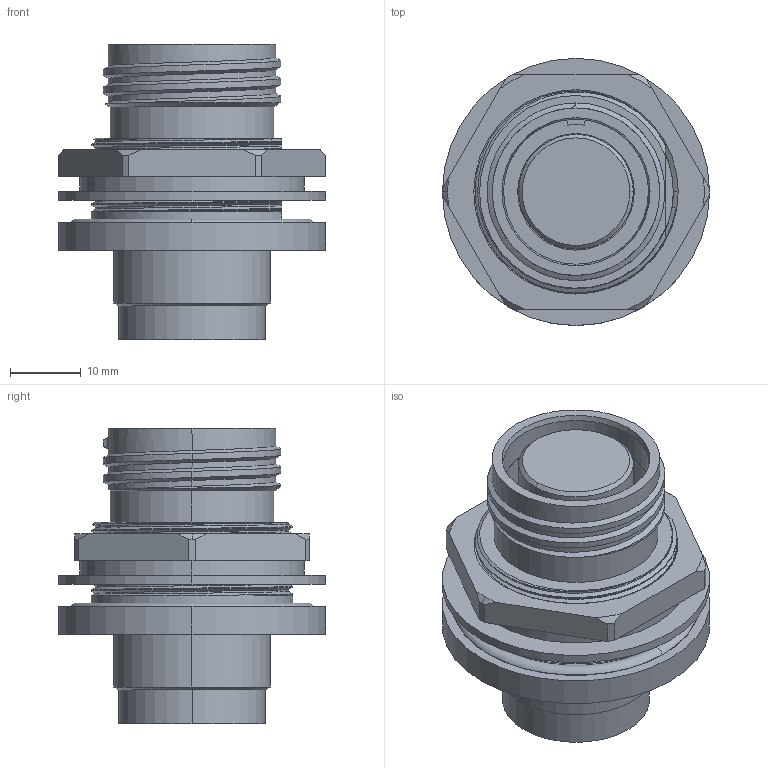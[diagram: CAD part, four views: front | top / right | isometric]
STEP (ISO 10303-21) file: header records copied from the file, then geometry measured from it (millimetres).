
FILE_DESCRIPTION (( 'STEP AP214' ), '1' );
FILE_NAME ('QLINK-RJTX-15XX-S00.STEP', '2025-09-30T21:38:55', ( '' ), ( '' ), 'SwSTEP 2.0', 'SolidWorks 2024', '' );
FILE_SCHEMA (( 'AUTOMOTIVE_DESIGN' ));
Length unit declared in the file: inch
Products named in the file (1): QLINK-RJTX-15XX-S00
Bounding box: 37.85 x 37.85 x 41.91 mm (x, y, z)
Volume: 21081.6 mm3; surface area: 12758.3 mm2
Topology: 4 solids, 4 shells, 195 faces, 492 edges, 319 vertices
Faces by surface type: cylinder 85, bspline 36, plane 34, cone 26, torus 14
Entity records: 20496 total; most frequent: CARTESIAN_POINT 16197, ORIENTED_EDGE 984, DIRECTION 793, EDGE_CURVE 492, AXIS2_PLACEMENT_3D 323, VERTEX_POINT 319, EDGE_LOOP 213, FACE_OUTER_BOUND 195
